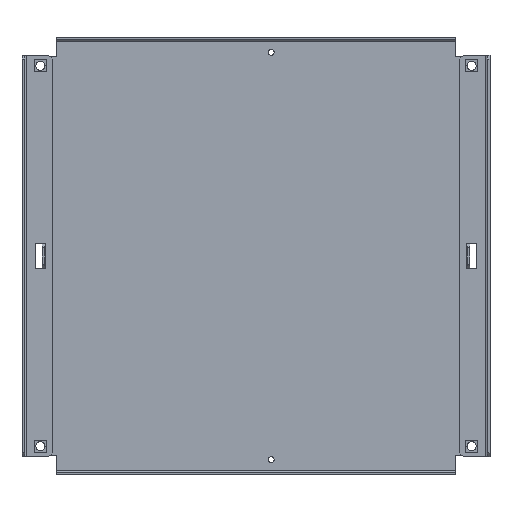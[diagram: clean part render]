
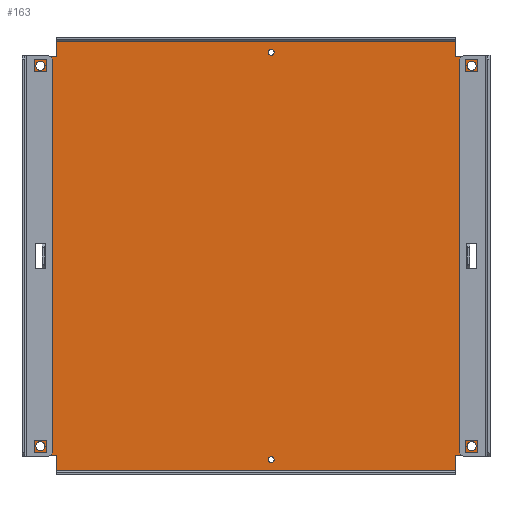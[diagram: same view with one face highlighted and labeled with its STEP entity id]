
A CAD part, top view. The second image highlights one B-rep face of the part: STEP entity #163.
In plain terms, the highlighted planar face has unit normal (0, 0, 1).
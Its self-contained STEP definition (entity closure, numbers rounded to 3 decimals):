
#163=ADVANCED_FACE('',(#1535,#1537,#1539,#1541,#1543,#1545,#1547),#1549,.T.);
#1535=FACE_BOUND('',#1536,.T.);
#1536=EDGE_LOOP('',(#2639,#2640,#2641,#2642,#2643,#2644,#2645,#2646,#2647,#2648,
#2649,#2650,#2651,#2652,#2653,#2654,#2655,#2656,#2657,#2658,#2659,#2660,#2661,#2662,
#2663,#2664,#2665,#2666));
#1537=FACE_BOUND('',#1538,.T.);
#1538=EDGE_LOOP('',(#2667));
#1539=FACE_BOUND('',#1540,.T.);
#1540=EDGE_LOOP('',(#2668));
#1541=FACE_BOUND('',#1542,.T.);
#1542=EDGE_LOOP('',(#2669));
#1543=FACE_BOUND('',#1544,.T.);
#1544=EDGE_LOOP('',(#2670));
#1545=FACE_BOUND('',#1546,.T.);
#1546=EDGE_LOOP('',(#2671));
#1547=FACE_BOUND('',#1548,.T.);
#1548=EDGE_LOOP('',(#2672));
#1549=PLANE('',#1550);
#1550=AXIS2_PLACEMENT_3D('',#1551,#1552,#1553);
#1551=CARTESIAN_POINT('',(0.,0.,0.));
#1552=DIRECTION('',(0.,0.,1.));
#1553=DIRECTION('',(1.,0.,0.));
#2639=ORIENTED_EDGE('',*,*,#3414,.F.);
#2640=ORIENTED_EDGE('',*,*,#3415,.T.);
#2641=ORIENTED_EDGE('',*,*,#3381,.T.);
#2642=ORIENTED_EDGE('',*,*,#3416,.T.);
#2643=ORIENTED_EDGE('',*,*,#3417,.T.);
#2644=ORIENTED_EDGE('',*,*,#3418,.F.);
#2645=ORIENTED_EDGE('',*,*,#3419,.F.);
#2646=ORIENTED_EDGE('',*,*,#3420,.F.);
#2647=ORIENTED_EDGE('',*,*,#3421,.T.);
#2648=ORIENTED_EDGE('',*,*,#3422,.T.);
#2649=ORIENTED_EDGE('',*,*,#3423,.T.);
#2650=ORIENTED_EDGE('',*,*,#3424,.T.);
#2651=ORIENTED_EDGE('',*,*,#3425,.F.);
#2652=ORIENTED_EDGE('',*,*,#3426,.T.);
#2653=ORIENTED_EDGE('',*,*,#3427,.T.);
#2654=ORIENTED_EDGE('',*,*,#3428,.T.);
#2655=ORIENTED_EDGE('',*,*,#3429,.T.);
#2656=ORIENTED_EDGE('',*,*,#3430,.T.);
#2657=ORIENTED_EDGE('',*,*,#3431,.T.);
#2658=ORIENTED_EDGE('',*,*,#3432,.F.);
#2659=ORIENTED_EDGE('',*,*,#3433,.F.);
#2660=ORIENTED_EDGE('',*,*,#3434,.F.);
#2661=ORIENTED_EDGE('',*,*,#3387,.T.);
#2662=ORIENTED_EDGE('',*,*,#3435,.T.);
#2663=ORIENTED_EDGE('',*,*,#3436,.F.);
#2664=ORIENTED_EDGE('',*,*,#3437,.F.);
#2665=ORIENTED_EDGE('',*,*,#3438,.F.);
#2666=ORIENTED_EDGE('',*,*,#3377,.F.);
#2667=ORIENTED_EDGE('',*,*,#3365,.F.);
#2668=ORIENTED_EDGE('',*,*,#3367,.T.);
#2669=ORIENTED_EDGE('',*,*,#3369,.T.);
#2670=ORIENTED_EDGE('',*,*,#3371,.F.);
#2671=ORIENTED_EDGE('',*,*,#3373,.T.);
#2672=ORIENTED_EDGE('',*,*,#3375,.F.);
#3365=EDGE_CURVE('',#3757,#3757,#3758,.T.);
#3367=EDGE_CURVE('',#3761,#3761,#3762,.T.);
#3369=EDGE_CURVE('',#3765,#3765,#3766,.T.);
#3371=EDGE_CURVE('',#3769,#3769,#3770,.T.);
#3373=EDGE_CURVE('',#3773,#3773,#3774,.T.);
#3375=EDGE_CURVE('',#3777,#3777,#3778,.T.);
#3377=EDGE_CURVE('',#3781,#3782,#3783,.T.);
#3381=EDGE_CURVE('',#3789,#3790,#3791,.T.);
#3387=EDGE_CURVE('',#3802,#3800,#3803,.T.);
#3414=EDGE_CURVE('',#3852,#3781,#3853,.T.);
#3415=EDGE_CURVE('',#3852,#3789,#3854,.T.);
#3416=EDGE_CURVE('',#3790,#3855,#3856,.T.);
#3417=EDGE_CURVE('',#3855,#3857,#3858,.T.);
#3418=EDGE_CURVE('',#3859,#3857,#3860,.T.);
#3419=EDGE_CURVE('',#3861,#3859,#3862,.T.);
#3420=EDGE_CURVE('',#3863,#3861,#3864,.T.);
#3421=EDGE_CURVE('',#3863,#3865,#3866,.T.);
#3422=EDGE_CURVE('',#3865,#3867,#3868,.T.);
#3423=EDGE_CURVE('',#3867,#3869,#3870,.T.);
#3424=EDGE_CURVE('',#3869,#3871,#3872,.T.);
#3425=EDGE_CURVE('',#3873,#3871,#3874,.T.);
#3426=EDGE_CURVE('',#3873,#3875,#3876,.T.);
#3427=EDGE_CURVE('',#3875,#3877,#3878,.T.);
#3428=EDGE_CURVE('',#3877,#3879,#3880,.T.);
#3429=EDGE_CURVE('',#3879,#3881,#3882,.T.);
#3430=EDGE_CURVE('',#3881,#3883,#3884,.T.);
#3431=EDGE_CURVE('',#3883,#3885,#3886,.T.);
#3432=EDGE_CURVE('',#3887,#3885,#3888,.T.);
#3433=EDGE_CURVE('',#3889,#3887,#3890,.T.);
#3434=EDGE_CURVE('',#3802,#3889,#3891,.T.);
#3435=EDGE_CURVE('',#3800,#3892,#3893,.T.);
#3436=EDGE_CURVE('',#3894,#3892,#3895,.T.);
#3437=EDGE_CURVE('',#3896,#3894,#3897,.T.);
#3438=EDGE_CURVE('',#3782,#3896,#3898,.T.);
#3757=VERTEX_POINT('',#4401);
#3758=CIRCLE('',#4402,2.3);
#3761=VERTEX_POINT('',#4411);
#3762=CIRCLE('',#4412,2.3);
#3765=VERTEX_POINT('',#4421);
#3766=CIRCLE('',#4422,3.65);
#3769=VERTEX_POINT('',#4431);
#3770=CIRCLE('',#4432,3.65);
#3773=VERTEX_POINT('',#4441);
#3774=CIRCLE('',#4442,3.65);
#3777=VERTEX_POINT('',#4451);
#3778=CIRCLE('',#4452,3.65);
#3781=VERTEX_POINT('',#4461);
#3782=VERTEX_POINT('',#4462);
#3783=LINE('',#4463,#4464);
#3789=VERTEX_POINT('',#4477);
#3790=VERTEX_POINT('',#4478);
#3791=LINE('',#4479,#4480);
#3800=VERTEX_POINT('',#4498);
#3802=VERTEX_POINT('',#4502);
#3803=LINE('',#4503,#4504);
#3852=VERTEX_POINT('',#4606);
#3853=LINE('',#4607,#4608);
#3854=LINE('',#4610,#4611);
#3855=VERTEX_POINT('',#4613);
#3856=LINE('',#4614,#4615);
#3857=VERTEX_POINT('',#4617);
#3858=LINE('',#4618,#4619);
#3859=VERTEX_POINT('',#4621);
#3860=LINE('',#4622,#4623);
#3861=VERTEX_POINT('',#4625);
#3862=LINE('',#4626,#4627);
#3863=VERTEX_POINT('',#4629);
#3864=LINE('',#4630,#4631);
#3865=VERTEX_POINT('',#4633);
#3866=LINE('',#4634,#4635);
#3867=VERTEX_POINT('',#4637);
#3868=LINE('',#4638,#4639);
#3869=VERTEX_POINT('',#4641);
#3870=LINE('',#4642,#4643);
#3871=VERTEX_POINT('',#4645);
#3872=LINE('',#4646,#4647);
#3873=VERTEX_POINT('',#4649);
#3874=LINE('',#4650,#4651);
#3875=VERTEX_POINT('',#4653);
#3876=LINE('',#4654,#4655);
#3877=VERTEX_POINT('',#4657);
#3878=LINE('',#4658,#4659);
#3879=VERTEX_POINT('',#4661);
#3880=LINE('',#4662,#4663);
#3881=VERTEX_POINT('',#4665);
#3882=LINE('',#4666,#4667);
#3883=VERTEX_POINT('',#4669);
#3884=LINE('',#4670,#4671);
#3885=VERTEX_POINT('',#4673);
#3886=LINE('',#4674,#4675);
#3887=VERTEX_POINT('',#4677);
#3888=LINE('',#4678,#4679);
#3889=VERTEX_POINT('',#4681);
#3890=LINE('',#4682,#4683);
#3891=LINE('',#4685,#4686);
#3892=VERTEX_POINT('',#4688);
#3893=LINE('',#4689,#4690);
#3894=VERTEX_POINT('',#4692);
#3895=LINE('',#4693,#4694);
#3896=VERTEX_POINT('',#4696);
#3897=LINE('',#4697,#4698);
#3898=LINE('',#4700,#4701);
#4401=CARTESIAN_POINT('',(9.7,160.7,0.));
#4402=AXIS2_PLACEMENT_3D('',#4403,#4404,#4405);
#4403=CARTESIAN_POINT('',(12.,160.7,0.));
#4404=DIRECTION('',(0.,0.,1.));
#4405=DIRECTION('',(-1.,0.,0.));
#4411=CARTESIAN_POINT('',(9.7,-160.7,0.));
#4412=AXIS2_PLACEMENT_3D('',#4413,#4414,#4415);
#4413=CARTESIAN_POINT('',(12.,-160.7,0.));
#4414=DIRECTION('',(0.,0.,-1.));
#4415=DIRECTION('',(1.,0.,0.));
#4421=CARTESIAN_POINT('',(166.45,150.,0.));
#4422=AXIS2_PLACEMENT_3D('',#4423,#4424,#4425);
#4423=CARTESIAN_POINT('',(170.1,150.,0.));
#4424=DIRECTION('',(0.,0.,-1.));
#4425=DIRECTION('',(1.,0.,0.));
#4431=CARTESIAN_POINT('',(166.45,-150.,0.));
#4432=AXIS2_PLACEMENT_3D('',#4433,#4434,#4435);
#4433=CARTESIAN_POINT('',(170.1,-150.,0.));
#4434=DIRECTION('',(0.,0.,1.));
#4435=DIRECTION('',(-1.,0.,0.));
#4441=CARTESIAN_POINT('',(-173.75,-150.,0.));
#4442=AXIS2_PLACEMENT_3D('',#4443,#4444,#4445);
#4443=CARTESIAN_POINT('',(-170.1,-150.,0.));
#4444=DIRECTION('',(0.,0.,-1.));
#4445=DIRECTION('',(1.,0.,0.));
#4451=CARTESIAN_POINT('',(-173.75,150.,0.));
#4452=AXIS2_PLACEMENT_3D('',#4453,#4454,#4455);
#4453=CARTESIAN_POINT('',(-170.1,150.,0.));
#4454=DIRECTION('',(0.,0.,1.));
#4455=DIRECTION('',(-1.,0.,0.));
#4461=CARTESIAN_POINT('',(165.2,16.,0.));
#4462=CARTESIAN_POINT('',(165.2,7.5,0.));
#4463=CARTESIAN_POINT('',(165.2,16.,0.));
#4464=VECTOR('',#4465,1.);
#4465=DIRECTION('',(0.,-1.,0.));
#4477=CARTESIAN_POINT('',(177.6,23.07,0.));
#4478=CARTESIAN_POINT('',(177.6,157.25,0.));
#4479=CARTESIAN_POINT('',(177.6,23.07,0.));
#4480=VECTOR('',#4481,1.);
#4481=DIRECTION('',(0.,1.,0.));
#4498=CARTESIAN_POINT('',(177.6,-23.07,0.));
#4502=CARTESIAN_POINT('',(177.6,-157.25,0.));
#4503=CARTESIAN_POINT('',(177.6,-157.25,0.));
#4504=VECTOR('',#4505,1.);
#4505=DIRECTION('',(0.,1.,0.));
#4606=CARTESIAN_POINT('',(170.53,16.,0.));
#4607=CARTESIAN_POINT('',(170.53,16.,0.));
#4608=VECTOR('',#4609,1.);
#4609=DIRECTION('',(-1.,0.,0.));
#4610=CARTESIAN_POINT('',(170.53,16.,0.));
#4611=VECTOR('',#4612,1.);
#4612=DIRECTION('',(0.707,0.707,0.));
#4613=CARTESIAN_POINT('',(157.6,157.25,0.));
#4614=CARTESIAN_POINT('',(177.6,157.25,0.));
#4615=VECTOR('',#4616,1.);
#4616=DIRECTION('',(-1.,0.,0.));
#4617=CARTESIAN_POINT('',(157.6,169.1,0.));
#4618=CARTESIAN_POINT('',(157.6,157.25,0.));
#4619=VECTOR('',#4620,1.);
#4620=DIRECTION('',(0.,1.,0.));
#4621=CARTESIAN_POINT('',(-157.6,169.1,0.));
#4622=CARTESIAN_POINT('',(-157.6,169.1,0.));
#4623=VECTOR('',#4624,1.);
#4624=DIRECTION('',(1.,0.,0.));
#4625=CARTESIAN_POINT('',(-157.6,157.25,0.));
#4626=CARTESIAN_POINT('',(-157.6,157.25,0.));
#4627=VECTOR('',#4628,1.);
#4628=DIRECTION('',(0.,1.,0.));
#4629=CARTESIAN_POINT('',(-177.6,157.25,0.));
#4630=CARTESIAN_POINT('',(-177.6,157.25,0.));
#4631=VECTOR('',#4632,1.);
#4632=DIRECTION('',(1.,0.,0.));
#4633=CARTESIAN_POINT('',(-177.6,23.07,0.));
#4634=CARTESIAN_POINT('',(-177.6,157.25,0.));
#4635=VECTOR('',#4636,1.);
#4636=DIRECTION('',(0.,-1.,0.));
#4637=CARTESIAN_POINT('',(-170.53,16.,0.));
#4638=CARTESIAN_POINT('',(-177.6,23.07,0.));
#4639=VECTOR('',#4640,1.);
#4640=DIRECTION('',(0.707,-0.707,0.));
#4641=CARTESIAN_POINT('',(-165.2,16.,0.));
#4642=CARTESIAN_POINT('',(-170.53,16.,0.));
#4643=VECTOR('',#4644,1.);
#4644=DIRECTION('',(1.,0.,0.));
#4645=CARTESIAN_POINT('',(-165.2,7.5,0.));
#4646=CARTESIAN_POINT('',(-165.2,16.,0.));
#4647=VECTOR('',#4648,1.);
#4648=DIRECTION('',(0.,-1.,0.));
#4649=CARTESIAN_POINT('',(-165.2,-7.5,0.));
#4650=CARTESIAN_POINT('',(-165.2,-7.5,0.));
#4651=VECTOR('',#4652,1.);
#4652=DIRECTION('',(0.,1.,0.));
#4653=CARTESIAN_POINT('',(-165.2,-16.,0.));
#4654=CARTESIAN_POINT('',(-165.2,-7.5,0.));
#4655=VECTOR('',#4656,1.);
#4656=DIRECTION('',(0.,-1.,0.));
#4657=CARTESIAN_POINT('',(-170.53,-16.,0.));
#4658=CARTESIAN_POINT('',(-165.2,-16.,0.));
#4659=VECTOR('',#4660,1.);
#4660=DIRECTION('',(-1.,0.,0.));
#4661=CARTESIAN_POINT('',(-177.6,-23.07,0.));
#4662=CARTESIAN_POINT('',(-170.53,-16.,0.));
#4663=VECTOR('',#4664,1.);
#4664=DIRECTION('',(-0.707,-0.707,0.));
#4665=CARTESIAN_POINT('',(-177.6,-157.25,0.));
#4666=CARTESIAN_POINT('',(-177.6,-23.07,0.));
#4667=VECTOR('',#4668,1.);
#4668=DIRECTION('',(0.,-1.,0.));
#4669=CARTESIAN_POINT('',(-157.6,-157.25,0.));
#4670=CARTESIAN_POINT('',(-177.6,-157.25,0.));
#4671=VECTOR('',#4672,1.);
#4672=DIRECTION('',(1.,0.,0.));
#4673=CARTESIAN_POINT('',(-157.6,-169.1,0.));
#4674=CARTESIAN_POINT('',(-157.6,-157.25,0.));
#4675=VECTOR('',#4676,1.);
#4676=DIRECTION('',(0.,-1.,0.));
#4677=CARTESIAN_POINT('',(157.6,-169.1,0.));
#4678=CARTESIAN_POINT('',(157.6,-169.1,0.));
#4679=VECTOR('',#4680,1.);
#4680=DIRECTION('',(-1.,0.,0.));
#4681=CARTESIAN_POINT('',(157.6,-157.25,0.));
#4682=CARTESIAN_POINT('',(157.6,-157.25,0.));
#4683=VECTOR('',#4684,1.);
#4684=DIRECTION('',(0.,-1.,0.));
#4685=CARTESIAN_POINT('',(177.6,-157.25,0.));
#4686=VECTOR('',#4687,1.);
#4687=DIRECTION('',(-1.,0.,0.));
#4688=CARTESIAN_POINT('',(170.53,-16.,0.));
#4689=CARTESIAN_POINT('',(177.6,-23.07,0.));
#4690=VECTOR('',#4691,1.);
#4691=DIRECTION('',(-0.707,0.707,0.));
#4692=CARTESIAN_POINT('',(165.2,-16.,0.));
#4693=CARTESIAN_POINT('',(165.2,-16.,0.));
#4694=VECTOR('',#4695,1.);
#4695=DIRECTION('',(1.,0.,0.));
#4696=CARTESIAN_POINT('',(165.2,-7.5,0.));
#4697=CARTESIAN_POINT('',(165.2,-7.5,0.));
#4698=VECTOR('',#4699,1.);
#4699=DIRECTION('',(0.,-1.,0.));
#4700=CARTESIAN_POINT('',(165.2,7.5,0.));
#4701=VECTOR('',#4702,1.);
#4702=DIRECTION('',(0.,-1.,0.));
